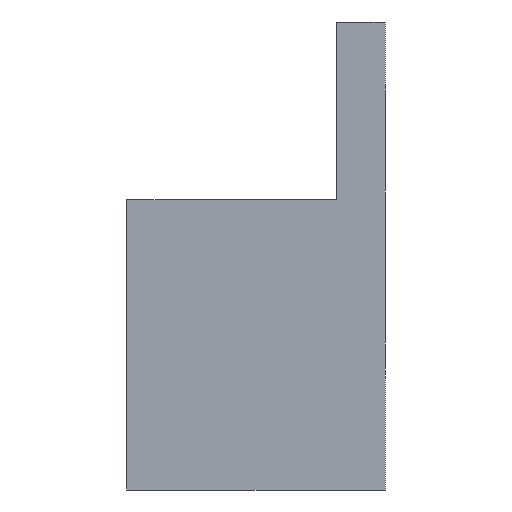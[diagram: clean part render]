
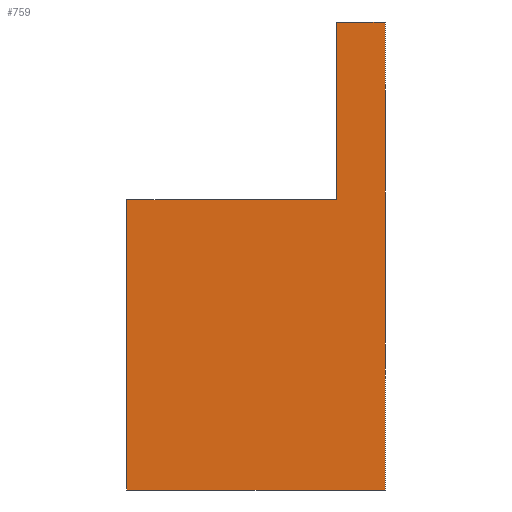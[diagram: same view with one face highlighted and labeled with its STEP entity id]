
A CAD part, front view. The second image highlights one B-rep face of the part: STEP entity #759.
In plain terms, the highlighted planar face has unit normal (0, -1, 0).
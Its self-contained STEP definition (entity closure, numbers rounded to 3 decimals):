
#32 = PLANE('',#33);
#33 = AXIS2_PLACEMENT_3D('',#34,#35,#36);
#34 = CARTESIAN_POINT('',(97.,-26.,47.95));
#35 = DIRECTION('',(1.,0.,-0.));
#36 = DIRECTION('',(0.,0.,1.));
#57 = VERTEX_POINT('',#58);
#58 = CARTESIAN_POINT('',(97.,-26.,76.95));
#72 = PLANE('',#73);
#73 = AXIS2_PLACEMENT_3D('',#74,#75,#76);
#74 = CARTESIAN_POINT('',(97.,-26.,76.95));
#75 = DIRECTION('',(0.,0.,1.));
#76 = DIRECTION('',(1.,0.,-0.));
#84 = EDGE_CURVE('',#85,#57,#87,.T.);
#85 = VERTEX_POINT('',#86);
#86 = CARTESIAN_POINT('',(97.,-26.,65.95));
#87 = SURFACE_CURVE('',#88,(#92,#99),.PCURVE_S1.);
#88 = LINE('',#89,#90);
#89 = CARTESIAN_POINT('',(97.,-26.,47.95));
#90 = VECTOR('',#91,1.);
#91 = DIRECTION('',(0.,0.,1.));
#92 = PCURVE('',#32,#93);
#93 = DEFINITIONAL_REPRESENTATION('',(#94),#98);
#94 = LINE('',#95,#96);
#95 = CARTESIAN_POINT('',(0.,0.));
#96 = VECTOR('',#97,1.);
#97 = DIRECTION('',(1.,0.));
#98 = ( GEOMETRIC_REPRESENTATION_CONTEXT(2) 
PARAMETRIC_REPRESENTATION_CONTEXT() REPRESENTATION_CONTEXT('2D SPACE',''
  ) );
#99 = PCURVE('',#100,#105);
#100 = PLANE('',#101);
#101 = AXIS2_PLACEMENT_3D('',#102,#103,#104);
#102 = CARTESIAN_POINT('',(97.,-26.,47.95));
#103 = DIRECTION('',(-0.,1.,0.));
#104 = DIRECTION('',(0.,0.,1.));
#105 = DEFINITIONAL_REPRESENTATION('',(#106),#110);
#106 = LINE('',#107,#108);
#107 = CARTESIAN_POINT('',(0.,0.));
#108 = VECTOR('',#109,1.);
#109 = DIRECTION('',(1.,0.));
#110 = ( GEOMETRIC_REPRESENTATION_CONTEXT(2) 
PARAMETRIC_REPRESENTATION_CONTEXT() REPRESENTATION_CONTEXT('2D SPACE',''
  ) );
#128 = PLANE('',#129);
#129 = AXIS2_PLACEMENT_3D('',#130,#131,#132);
#130 = CARTESIAN_POINT('',(84.,-26.,65.95));
#131 = DIRECTION('',(0.,0.,1.));
#132 = DIRECTION('',(1.,0.,-0.));
#455 = PLANE('',#456);
#456 = AXIS2_PLACEMENT_3D('',#457,#458,#459);
#457 = CARTESIAN_POINT('',(97.,-26.,47.95));
#458 = DIRECTION('',(0.,0.,1.));
#459 = DIRECTION('',(1.,0.,-0.));
#554 = PLANE('',#555);
#555 = AXIS2_PLACEMENT_3D('',#556,#557,#558);
#556 = CARTESIAN_POINT('',(100.,-26.,47.95));
#557 = DIRECTION('',(1.,0.,-0.));
#558 = DIRECTION('',(0.,0.,1.));
#619 = EDGE_CURVE('',#57,#620,#622,.T.);
#620 = VERTEX_POINT('',#621);
#621 = CARTESIAN_POINT('',(100.,-26.,76.95));
#622 = SURFACE_CURVE('',#623,(#627,#634),.PCURVE_S1.);
#623 = LINE('',#624,#625);
#624 = CARTESIAN_POINT('',(97.,-26.,76.95));
#625 = VECTOR('',#626,1.);
#626 = DIRECTION('',(1.,0.,-0.));
#627 = PCURVE('',#72,#628);
#628 = DEFINITIONAL_REPRESENTATION('',(#629),#633);
#629 = LINE('',#630,#631);
#630 = CARTESIAN_POINT('',(0.,0.));
#631 = VECTOR('',#632,1.);
#632 = DIRECTION('',(1.,0.));
#633 = ( GEOMETRIC_REPRESENTATION_CONTEXT(2) 
PARAMETRIC_REPRESENTATION_CONTEXT() REPRESENTATION_CONTEXT('2D SPACE',''
  ) );
#634 = PCURVE('',#100,#635);
#635 = DEFINITIONAL_REPRESENTATION('',(#636),#640);
#636 = LINE('',#637,#638);
#637 = CARTESIAN_POINT('',(29.,0.));
#638 = VECTOR('',#639,1.);
#639 = DIRECTION('',(0.,1.));
#640 = ( GEOMETRIC_REPRESENTATION_CONTEXT(2) 
PARAMETRIC_REPRESENTATION_CONTEXT() REPRESENTATION_CONTEXT('2D SPACE',''
  ) );
#759 = ADVANCED_FACE('',(#760),#100,.F.);
#760 = FACE_BOUND('',#761,.F.);
#761 = EDGE_LOOP('',(#762,#787,#815,#836,#837,#838));
#762 = ORIENTED_EDGE('',*,*,#763,.F.);
#763 = EDGE_CURVE('',#764,#766,#768,.T.);
#764 = VERTEX_POINT('',#765);
#765 = CARTESIAN_POINT('',(84.,-26.,47.95));
#766 = VERTEX_POINT('',#767);
#767 = CARTESIAN_POINT('',(100.,-26.,47.95));
#768 = SURFACE_CURVE('',#769,(#773,#780),.PCURVE_S1.);
#769 = LINE('',#770,#771);
#770 = CARTESIAN_POINT('',(84.,-26.,47.95));
#771 = VECTOR('',#772,1.);
#772 = DIRECTION('',(1.,0.,0.));
#773 = PCURVE('',#100,#774);
#774 = DEFINITIONAL_REPRESENTATION('',(#775),#779);
#775 = LINE('',#776,#777);
#776 = CARTESIAN_POINT('',(0.,-13.));
#777 = VECTOR('',#778,1.);
#778 = DIRECTION('',(0.,1.));
#779 = ( GEOMETRIC_REPRESENTATION_CONTEXT(2) 
PARAMETRIC_REPRESENTATION_CONTEXT() REPRESENTATION_CONTEXT('2D SPACE',''
  ) );
#780 = PCURVE('',#455,#781);
#781 = DEFINITIONAL_REPRESENTATION('',(#782),#786);
#782 = LINE('',#783,#784);
#783 = CARTESIAN_POINT('',(-13.,0.));
#784 = VECTOR('',#785,1.);
#785 = DIRECTION('',(1.,0.));
#786 = ( GEOMETRIC_REPRESENTATION_CONTEXT(2) 
PARAMETRIC_REPRESENTATION_CONTEXT() REPRESENTATION_CONTEXT('2D SPACE',''
  ) );
#787 = ORIENTED_EDGE('',*,*,#788,.T.);
#788 = EDGE_CURVE('',#764,#789,#791,.T.);
#789 = VERTEX_POINT('',#790);
#790 = CARTESIAN_POINT('',(84.,-26.,65.95));
#791 = SURFACE_CURVE('',#792,(#796,#803),.PCURVE_S1.);
#792 = LINE('',#793,#794);
#793 = CARTESIAN_POINT('',(84.,-26.,47.95));
#794 = VECTOR('',#795,1.);
#795 = DIRECTION('',(0.,0.,1.));
#796 = PCURVE('',#100,#797);
#797 = DEFINITIONAL_REPRESENTATION('',(#798),#802);
#798 = LINE('',#799,#800);
#799 = CARTESIAN_POINT('',(0.,-13.));
#800 = VECTOR('',#801,1.);
#801 = DIRECTION('',(1.,0.));
#802 = ( GEOMETRIC_REPRESENTATION_CONTEXT(2) 
PARAMETRIC_REPRESENTATION_CONTEXT() REPRESENTATION_CONTEXT('2D SPACE',''
  ) );
#803 = PCURVE('',#804,#809);
#804 = PLANE('',#805);
#805 = AXIS2_PLACEMENT_3D('',#806,#807,#808);
#806 = CARTESIAN_POINT('',(84.,-26.,47.95));
#807 = DIRECTION('',(1.,0.,-0.));
#808 = DIRECTION('',(0.,0.,1.));
#809 = DEFINITIONAL_REPRESENTATION('',(#810),#814);
#810 = LINE('',#811,#812);
#811 = CARTESIAN_POINT('',(0.,0.));
#812 = VECTOR('',#813,1.);
#813 = DIRECTION('',(1.,0.));
#814 = ( GEOMETRIC_REPRESENTATION_CONTEXT(2) 
PARAMETRIC_REPRESENTATION_CONTEXT() REPRESENTATION_CONTEXT('2D SPACE',''
  ) );
#815 = ORIENTED_EDGE('',*,*,#816,.T.);
#816 = EDGE_CURVE('',#789,#85,#817,.T.);
#817 = SURFACE_CURVE('',#818,(#822,#829),.PCURVE_S1.);
#818 = LINE('',#819,#820);
#819 = CARTESIAN_POINT('',(84.,-26.,65.95));
#820 = VECTOR('',#821,1.);
#821 = DIRECTION('',(1.,0.,-0.));
#822 = PCURVE('',#100,#823);
#823 = DEFINITIONAL_REPRESENTATION('',(#824),#828);
#824 = LINE('',#825,#826);
#825 = CARTESIAN_POINT('',(18.,-13.));
#826 = VECTOR('',#827,1.);
#827 = DIRECTION('',(0.,1.));
#828 = ( GEOMETRIC_REPRESENTATION_CONTEXT(2) 
PARAMETRIC_REPRESENTATION_CONTEXT() REPRESENTATION_CONTEXT('2D SPACE',''
  ) );
#829 = PCURVE('',#128,#830);
#830 = DEFINITIONAL_REPRESENTATION('',(#831),#835);
#831 = LINE('',#832,#833);
#832 = CARTESIAN_POINT('',(0.,0.));
#833 = VECTOR('',#834,1.);
#834 = DIRECTION('',(1.,0.));
#835 = ( GEOMETRIC_REPRESENTATION_CONTEXT(2) 
PARAMETRIC_REPRESENTATION_CONTEXT() REPRESENTATION_CONTEXT('2D SPACE',''
  ) );
#836 = ORIENTED_EDGE('',*,*,#84,.T.);
#837 = ORIENTED_EDGE('',*,*,#619,.T.);
#838 = ORIENTED_EDGE('',*,*,#839,.F.);
#839 = EDGE_CURVE('',#766,#620,#840,.T.);
#840 = SURFACE_CURVE('',#841,(#845,#852),.PCURVE_S1.);
#841 = LINE('',#842,#843);
#842 = CARTESIAN_POINT('',(100.,-26.,47.95));
#843 = VECTOR('',#844,1.);
#844 = DIRECTION('',(0.,0.,1.));
#845 = PCURVE('',#100,#846);
#846 = DEFINITIONAL_REPRESENTATION('',(#847),#851);
#847 = LINE('',#848,#849);
#848 = CARTESIAN_POINT('',(0.,3.));
#849 = VECTOR('',#850,1.);
#850 = DIRECTION('',(1.,0.));
#851 = ( GEOMETRIC_REPRESENTATION_CONTEXT(2) 
PARAMETRIC_REPRESENTATION_CONTEXT() REPRESENTATION_CONTEXT('2D SPACE',''
  ) );
#852 = PCURVE('',#554,#853);
#853 = DEFINITIONAL_REPRESENTATION('',(#854),#858);
#854 = LINE('',#855,#856);
#855 = CARTESIAN_POINT('',(0.,0.));
#856 = VECTOR('',#857,1.);
#857 = DIRECTION('',(1.,0.));
#858 = ( GEOMETRIC_REPRESENTATION_CONTEXT(2) 
PARAMETRIC_REPRESENTATION_CONTEXT() REPRESENTATION_CONTEXT('2D SPACE',''
  ) );
